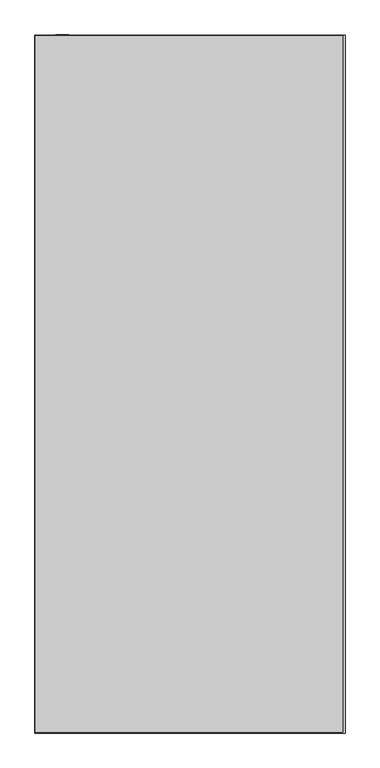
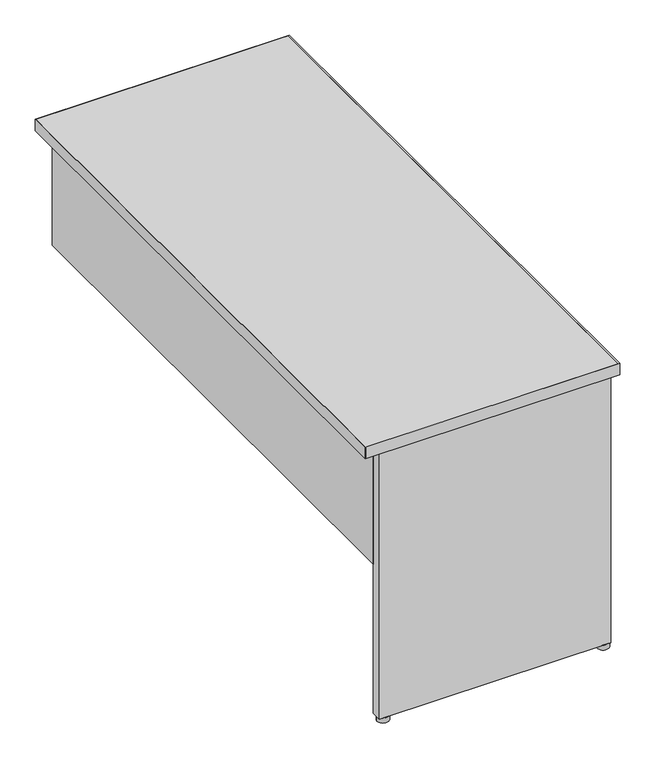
"""IFC4 building model written with IfcOpenShell, lengths in millimetres: furniture geometry, Steelcase - Kick Freestanding - Desk - Return - Partial Height Modesty Panel : 24D x 54W - Left."""

from ifc_helpers import new_model, si_unit, point, frame, frame_2d, origin, origin_with_axes, place, context, project, spatial, polyline, circle_curve, trimmed, segment, composite_curve, outline, extrude, source, transform, mapped, element, save


def furniture_9c041a80(model_context):
    return source(origin(), model_context, "Body", "SweptSolid", [
        extrude(outline(composite_curve([segment(trimmed(circle_curve(frame_2d((2220.2474425, -1893.0145152)), 13.97), [point((2206.2774425, -1893.0145152))], [point((2234.2174425, -1893.0145152))], False, "CARTESIAN"), True, "CONTINUOUS"), segment(trimmed(circle_curve(frame_2d((2220.2474425, -1893.0145152)), 13.97), [point((2234.2174425, -1893.0145152))], [point((2206.2774425, -1893.0145152))], False, "CARTESIAN"), True, "CONTINUOUS")], self_intersect=False)), origin_with_axes(), (0.0, 0.0, 1.0), 12.7),
        extrude(outline(composite_curve([segment(trimmed(circle_curve(frame_2d((2748.0594425, -1893.0145152)), 13.97), [point((2734.0894425, -1893.0145152))], [point((2762.0294425, -1893.0145152))], False, "CARTESIAN"), True, "CONTINUOUS"), segment(trimmed(circle_curve(frame_2d((2748.0594425, -1893.0145152)), 13.97), [point((2762.0294425, -1893.0145152))], [point((2734.0894425, -1893.0145152))], False, "CARTESIAN"), True, "CONTINUOUS")], self_intersect=False)), origin_with_axes(), (0.0, 0.0, 1.0), 12.7),
        extrude(outline(polyline([(2205.0074425, -1880.4669152), (2328.2736437, -1880.4669152), (2328.2736437, -1902.8951136), (2427.9940467, -1902.8951136), (2427.9940467, -1880.4669041), (2536.7314502, -1880.4669041), (2536.7314502, -1902.8951136), (2636.4518532, -1902.8951136), (2636.4518532, -1880.4669041), (2759.4894376, -1880.4669041), (2759.4894376, -1904.9525098), (2205.0074425, -1904.9525098), (2205.0074425, -1880.4669152)])), frame((0.0, 0.0, 12.7), z_axis=(0.0, 0.0, 1.0), x_axis=(1.0, 0.0, 0.0)), (0.0, 0.0, 1.0), 682.244),
        extrude(outline(polyline([(2230.4074426, -546.0525152), (2230.4074426, -1880.4669152), (2205.0074425, -1880.4669152), (2205.0074425, -546.0525152), (2230.4074426, -546.0525152)])), frame((0.0, 0.0, 390.144), z_axis=(0.0, 0.0, 1.0), x_axis=(1.0, 0.0, 0.0)), (0.0, 0.0, 1.0), 304.8),
        extrude(outline(polyline([(2769.2176592, -548.0845152), (2769.2176592, -1917.1445152), (2164.8500425, -1917.1445152), (2164.8500425, -548.0845152), (2769.2176592, -548.0845152)])), frame((0.0, 0.0, 694.944), z_axis=(0.0, 0.0, 1.0), x_axis=(1.0, 0.0, 0.0)), (0.0, 0.0, 1.0), 28.956),
        extrude(outline(polyline([(2773.4594425, -546.8145152), (2773.4594425, -1918.4145152), (2163.8594425, -1918.4145152), (2163.8594425, -546.8145152), (2773.4594425, -546.8145152)]), holes=[polyline([(2769.2176592, -548.0845152), (2164.8500425, -548.0845152), (2164.8500425, -1917.1445152), (2769.2176592, -1917.1445152), (2769.2176592, -548.0845152)])]), frame((0.0, 0.0, 694.944), z_axis=(0.0, 0.0, 1.0), x_axis=(1.0, 0.0, 0.0)), (0.0, 0.0, 1.0), 28.956),
    ])


if __name__ == "__main__":
    model = new_model("IFC4")
    model_context = context("Model", 3, world=origin())
    ifc_project = project(units=[si_unit("LENGTHUNIT", "METRE", prefix="MILLI")], contexts=[model_context])
    site = spatial("IfcSite", under=ifc_project)
    building = spatial("IfcBuilding", under=site)
    placement = place(None, origin())
    furniture_shape = furniture_9c041a80(model_context)
    element("IfcFurniture", 1, ObjectType="Steelcase - Kick Freestanding - Desk - Return - Partial Height Modesty Panel : 24D x 54W - Left", at=placement, inside=building, context=model_context, shape_type="MappedRepresentation", body=[
        mapped(furniture_shape, transform((0.0, 0.0, 0.0), x_axis=(1.0, 0.0, 0.0), y_axis=(0.0, 1.0, 0.0), z_axis=(0.0, 0.0, 1.0))),
    ])
    save(model, "model.ifc")
